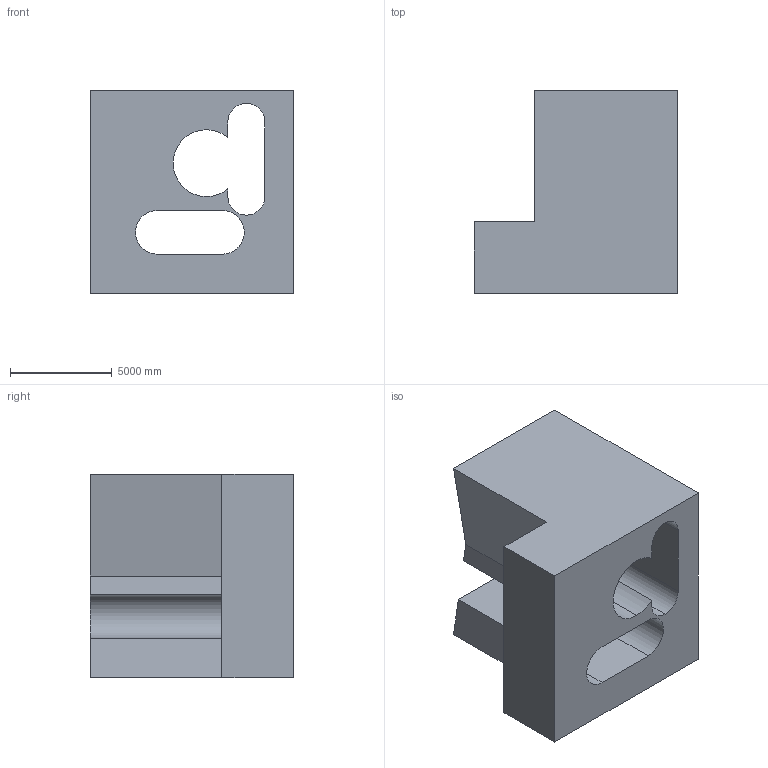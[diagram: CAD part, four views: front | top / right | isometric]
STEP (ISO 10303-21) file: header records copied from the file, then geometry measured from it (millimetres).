
FILE_DESCRIPTION (( 'STEP AP203' ), '1' );
FILE_NAME ('370.STEP', '2022-07-29T11:01:52', ( 'user' ), ( '' ), 'SwSTEP 2.0', 'SolidWorks 2021', '' );
FILE_SCHEMA (( 'CONFIG_CONTROL_DESIGN' ));
Length unit declared in the file: centimetre
Products named in the file (1): 370
Bounding box: 10000 x 10000 x 10000 mm (x, y, z)
Volume: 522572483446.2 mm3; surface area: 781322254.9 mm2
Topology: 1 solids, 1 shells, 23 faces, 65 edges, 43 vertices
Faces by surface type: plane 15, cylinder 8
Entity records: 832 total; most frequent: CARTESIAN_POINT 132, ORIENTED_EDGE 130, DIRECTION 129, EDGE_CURVE 65, LINE 49, VECTOR 49, VERTEX_POINT 43, AXIS2_PLACEMENT_3D 40
